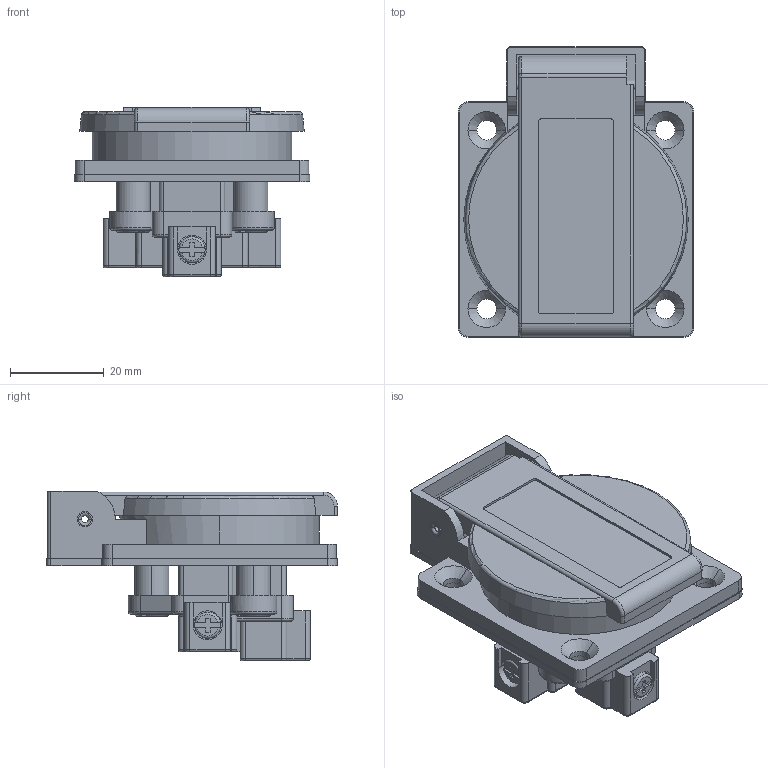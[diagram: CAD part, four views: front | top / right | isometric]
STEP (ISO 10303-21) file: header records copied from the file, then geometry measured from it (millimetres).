
FILE_DESCRIPTION((''),'2;1');
FILE_NAME('1116118_PRT','2018-03-14T',('gisse'),('MENNEKES'),'PRO/ENGINEER BY PARAMETRIC TECHNOLOGY CORPORATION, 2015440','PRO/ENGINEER BY PARAMETRIC TECHNOLOGY CORPORATION, 2015440','');
FILE_SCHEMA(('AUTOMOTIVE_DESIGN { 1 0 10303 214 1 1 1 1 }'));
Length unit declared in the file: millimetre
Products named in the file (1): 1116118_PRT
Bounding box: 50.4 x 62.2 x 36.3 mm (x, y, z)
Volume: 39158.6 mm3; surface area: 18679.1 mm2
Topology: 1 solids, 1 shells, 434 faces, 1122 edges, 716 vertices
Faces by surface type: plane 221, cylinder 156, torus 47, cone 10
Entity records: 21502 total; most frequent: CARTESIAN_POINT 2618, DIRECTION 2337, ORIENTED_EDGE 2244, PRESENTATION_STYLE_ASSIGNMENT 1477, STYLED_ITEM 1152, CURVE_STYLE 1122, EDGE_CURVE 1122, AXIS2_PLACEMENT_3D 830
